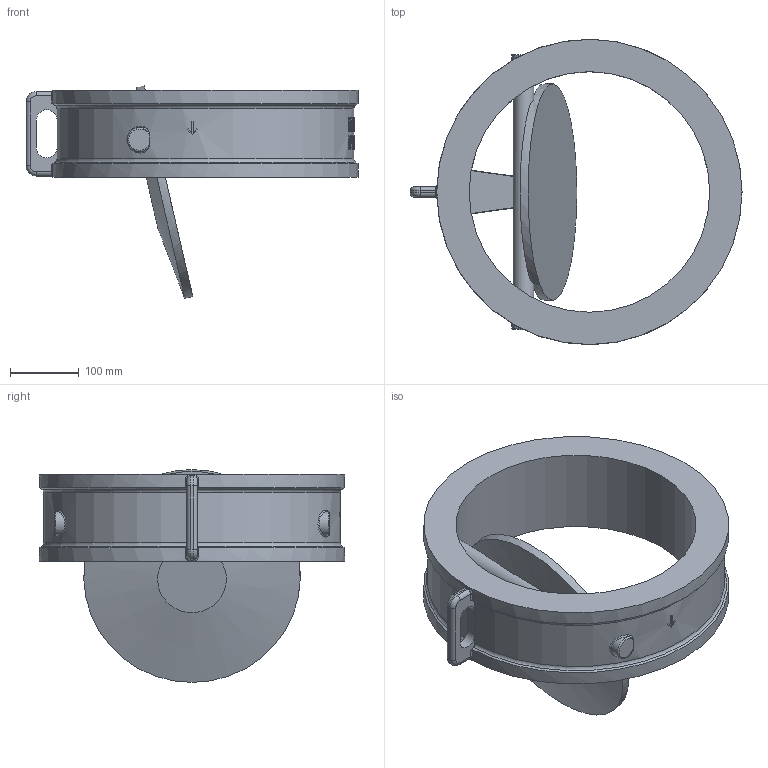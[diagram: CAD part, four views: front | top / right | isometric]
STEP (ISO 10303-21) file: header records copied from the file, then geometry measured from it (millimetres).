
FILE_DESCRIPTION( ( 'Unknown' ), '1' );
FILE_NAME( 'C:/Documents and Settings/Klaus/My Documents/Rootsi BPS 3D, Klaus/BPS 6530 tilting disc check valve/STEP/BPS6530350 tilting disc check valve DN350.stp', 'Unknown', ( 'Unknown' ), ( 'Unknown' ), 'PSStep 10.1', 'Unknown', ' ' );
FILE_SCHEMA( ( 'AUTOMOTIVE_DESIGN { 1 0 10303 214 1 1 1 1 }' ) );
Length unit declared in the file: millimetre
Products named in the file (1): 1
Bounding box: 483 x 444 x 309.63 mm (x, y, z)
Volume: 8567933 mm3; surface area: 637501.7 mm2
Topology: 1 solids, 1 shells, 248 faces, 608 edges, 393 vertices
Faces by surface type: bspline 90, plane 89, cylinder 55, torus 10, cone 4
Full cylindrical faces by diameter (mm): 30 x1, 315 x1, 350 x1
Entity records: 27026 total; most frequent: CARTESIAN_POINT 20391, ORIENTED_EDGE 1192, EDGE_CURVE 596, DIRECTION 500, B_SPLINE_CURVE_WITH_KNOTS 479, VERTEX_POINT 391, EDGE_LOOP 297, FACE_OUTER_BOUND 257
